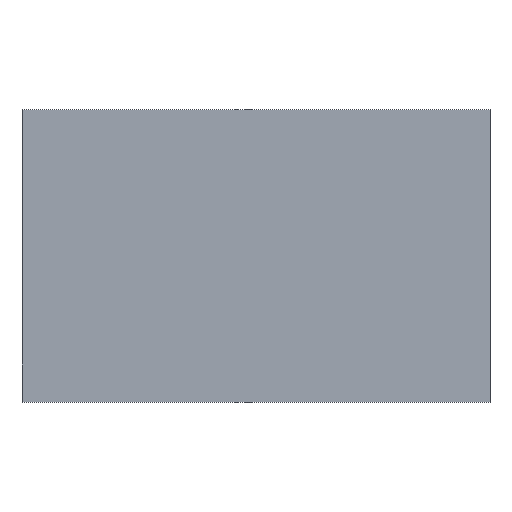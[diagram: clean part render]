
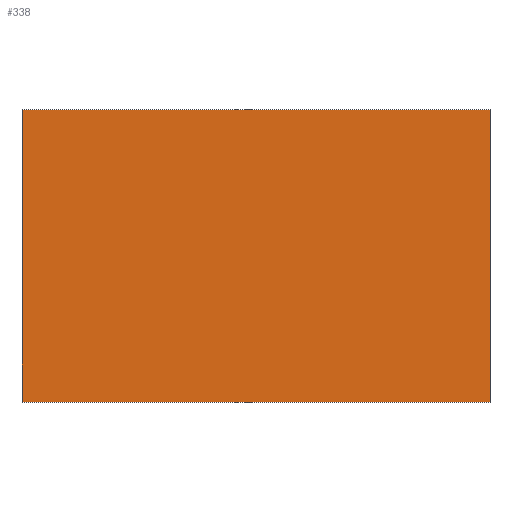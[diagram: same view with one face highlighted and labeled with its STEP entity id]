
A CAD part, top view. The second image highlights one B-rep face of the part: STEP entity #338.
In plain terms, the highlighted planar face has unit normal (0, 0, 1).
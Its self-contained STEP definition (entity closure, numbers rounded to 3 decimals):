
#24 = VERTEX_POINT('',#25);
#25 = CARTESIAN_POINT('',(-31.3,26.98,1.));
#32 = PLANE('',#33);
#33 = AXIS2_PLACEMENT_3D('',#34,#35,#36);
#34 = CARTESIAN_POINT('',(-31.3,26.98,-16.75));
#35 = DIRECTION('',(1.,0.,-0.));
#36 = DIRECTION('',(0.,0.,1.));
#44 = PLANE('',#45);
#45 = AXIS2_PLACEMENT_3D('',#46,#47,#48);
#46 = CARTESIAN_POINT('',(-31.3,26.98,-16.75));
#47 = DIRECTION('',(-0.,1.,0.));
#48 = DIRECTION('',(0.,0.,1.));
#85 = VERTEX_POINT('',#86);
#86 = CARTESIAN_POINT('',(-31.3,66.08,1.));
#100 = PLANE('',#101);
#101 = AXIS2_PLACEMENT_3D('',#102,#103,#104);
#102 = CARTESIAN_POINT('',(-31.3,66.08,-16.75));
#103 = DIRECTION('',(-0.,1.,0.));
#104 = DIRECTION('',(0.,0.,1.));
#112 = EDGE_CURVE('',#24,#85,#113,.T.);
#113 = SURFACE_CURVE('',#114,(#118,#125),.PCURVE_S1.);
#114 = LINE('',#115,#116);
#115 = CARTESIAN_POINT('',(-31.3,26.98,1.));
#116 = VECTOR('',#117,1.);
#117 = DIRECTION('',(-0.,1.,0.));
#118 = PCURVE('',#32,#119);
#119 = DEFINITIONAL_REPRESENTATION('',(#120),#124);
#120 = LINE('',#121,#122);
#121 = CARTESIAN_POINT('',(17.75,0.));
#122 = VECTOR('',#123,1.);
#123 = DIRECTION('',(0.,-1.));
#124 = ( GEOMETRIC_REPRESENTATION_CONTEXT(2) 
PARAMETRIC_REPRESENTATION_CONTEXT() REPRESENTATION_CONTEXT('2D SPACE',''
  ) );
#125 = PCURVE('',#126,#131);
#126 = PLANE('',#127);
#127 = AXIS2_PLACEMENT_3D('',#128,#129,#130);
#128 = CARTESIAN_POINT('',(-31.3,26.98,1.));
#129 = DIRECTION('',(0.,0.,1.));
#130 = DIRECTION('',(1.,0.,-0.));
#131 = DEFINITIONAL_REPRESENTATION('',(#132),#136);
#132 = LINE('',#133,#134);
#133 = CARTESIAN_POINT('',(0.,0.));
#134 = VECTOR('',#135,1.);
#135 = DIRECTION('',(0.,1.));
#136 = ( GEOMETRIC_REPRESENTATION_CONTEXT(2) 
PARAMETRIC_REPRESENTATION_CONTEXT() REPRESENTATION_CONTEXT('2D SPACE',''
  ) );
#144 = VERTEX_POINT('',#145);
#145 = CARTESIAN_POINT('',(31.3,26.98,1.));
#152 = PLANE('',#153);
#153 = AXIS2_PLACEMENT_3D('',#154,#155,#156);
#154 = CARTESIAN_POINT('',(31.3,26.98,-16.75));
#155 = DIRECTION('',(1.,0.,-0.));
#156 = DIRECTION('',(0.,0.,1.));
#195 = VERTEX_POINT('',#196);
#196 = CARTESIAN_POINT('',(31.3,66.08,1.));
#217 = EDGE_CURVE('',#144,#195,#218,.T.);
#218 = SURFACE_CURVE('',#219,(#223,#230),.PCURVE_S1.);
#219 = LINE('',#220,#221);
#220 = CARTESIAN_POINT('',(31.3,26.98,1.));
#221 = VECTOR('',#222,1.);
#222 = DIRECTION('',(-0.,1.,0.));
#223 = PCURVE('',#152,#224);
#224 = DEFINITIONAL_REPRESENTATION('',(#225),#229);
#225 = LINE('',#226,#227);
#226 = CARTESIAN_POINT('',(17.75,0.));
#227 = VECTOR('',#228,1.);
#228 = DIRECTION('',(0.,-1.));
#229 = ( GEOMETRIC_REPRESENTATION_CONTEXT(2) 
PARAMETRIC_REPRESENTATION_CONTEXT() REPRESENTATION_CONTEXT('2D SPACE',''
  ) );
#230 = PCURVE('',#126,#231);
#231 = DEFINITIONAL_REPRESENTATION('',(#232),#236);
#232 = LINE('',#233,#234);
#233 = CARTESIAN_POINT('',(62.6,0.));
#234 = VECTOR('',#235,1.);
#235 = DIRECTION('',(0.,1.));
#236 = ( GEOMETRIC_REPRESENTATION_CONTEXT(2) 
PARAMETRIC_REPRESENTATION_CONTEXT() REPRESENTATION_CONTEXT('2D SPACE',''
  ) );
#263 = EDGE_CURVE('',#24,#144,#264,.T.);
#264 = SURFACE_CURVE('',#265,(#269,#276),.PCURVE_S1.);
#265 = LINE('',#266,#267);
#266 = CARTESIAN_POINT('',(-31.3,26.98,1.));
#267 = VECTOR('',#268,1.);
#268 = DIRECTION('',(1.,0.,-0.));
#269 = PCURVE('',#44,#270);
#270 = DEFINITIONAL_REPRESENTATION('',(#271),#275);
#271 = LINE('',#272,#273);
#272 = CARTESIAN_POINT('',(17.75,0.));
#273 = VECTOR('',#274,1.);
#274 = DIRECTION('',(0.,1.));
#275 = ( GEOMETRIC_REPRESENTATION_CONTEXT(2) 
PARAMETRIC_REPRESENTATION_CONTEXT() REPRESENTATION_CONTEXT('2D SPACE',''
  ) );
#276 = PCURVE('',#126,#277);
#277 = DEFINITIONAL_REPRESENTATION('',(#278),#282);
#278 = LINE('',#279,#280);
#279 = CARTESIAN_POINT('',(0.,0.));
#280 = VECTOR('',#281,1.);
#281 = DIRECTION('',(1.,0.));
#282 = ( GEOMETRIC_REPRESENTATION_CONTEXT(2) 
PARAMETRIC_REPRESENTATION_CONTEXT() REPRESENTATION_CONTEXT('2D SPACE',''
  ) );
#310 = EDGE_CURVE('',#85,#195,#311,.T.);
#311 = SURFACE_CURVE('',#312,(#316,#323),.PCURVE_S1.);
#312 = LINE('',#313,#314);
#313 = CARTESIAN_POINT('',(-31.3,66.08,1.));
#314 = VECTOR('',#315,1.);
#315 = DIRECTION('',(1.,0.,-0.));
#316 = PCURVE('',#100,#317);
#317 = DEFINITIONAL_REPRESENTATION('',(#318),#322);
#318 = LINE('',#319,#320);
#319 = CARTESIAN_POINT('',(17.75,0.));
#320 = VECTOR('',#321,1.);
#321 = DIRECTION('',(0.,1.));
#322 = ( GEOMETRIC_REPRESENTATION_CONTEXT(2) 
PARAMETRIC_REPRESENTATION_CONTEXT() REPRESENTATION_CONTEXT('2D SPACE',''
  ) );
#323 = PCURVE('',#126,#324);
#324 = DEFINITIONAL_REPRESENTATION('',(#325),#329);
#325 = LINE('',#326,#327);
#326 = CARTESIAN_POINT('',(0.,39.1));
#327 = VECTOR('',#328,1.);
#328 = DIRECTION('',(1.,0.));
#329 = ( GEOMETRIC_REPRESENTATION_CONTEXT(2) 
PARAMETRIC_REPRESENTATION_CONTEXT() REPRESENTATION_CONTEXT('2D SPACE',''
  ) );
#338 = ADVANCED_FACE('',(#339),#126,.T.);
#339 = FACE_BOUND('',#340,.T.);
#340 = EDGE_LOOP('',(#341,#342,#343,#344));
#341 = ORIENTED_EDGE('',*,*,#112,.F.);
#342 = ORIENTED_EDGE('',*,*,#263,.T.);
#343 = ORIENTED_EDGE('',*,*,#217,.T.);
#344 = ORIENTED_EDGE('',*,*,#310,.F.);
